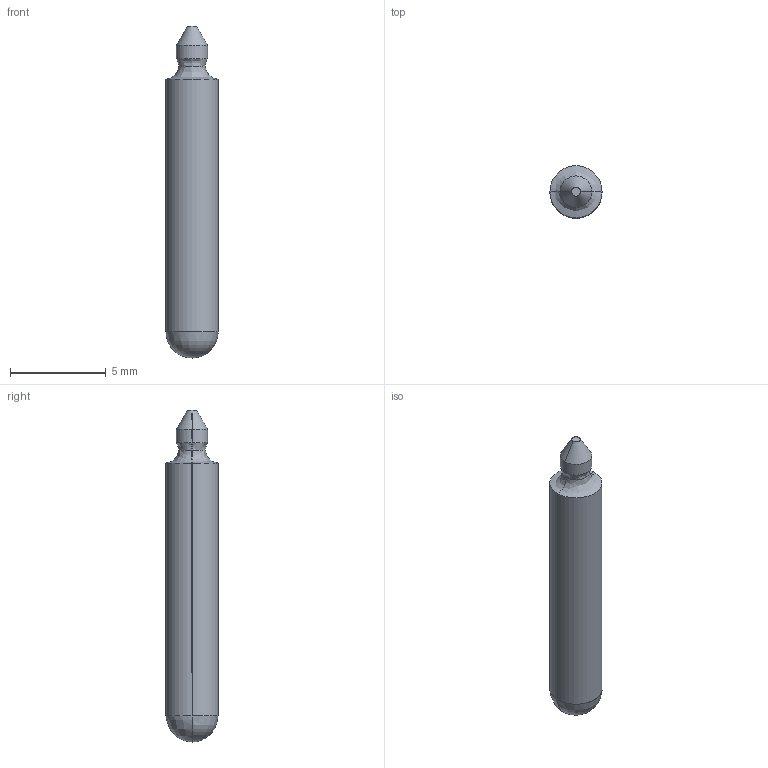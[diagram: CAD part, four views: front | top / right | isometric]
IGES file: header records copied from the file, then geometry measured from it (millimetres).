
Start section: SolidWorks IGES file using analytic representation for surfaces
Global section: file name: \\PSSILO\catalogs\CONTENTCENTRAL\Safety Lock Plunger\Cache\CCAA5C61-CB23-409D-9715-7EC79C5A36F4.IGS; native system: SolidWorks 2009; preprocessor: SolidWorks 2009; author: partstream; date: 090716.111728; units: inch
Bounding box: 2.72 x 2.72 x 17.3 mm (x, y, z)
Surface area: 139.7 mm2 (no closed solid volume)
Topology: 0 solids, 0 shells, 13 faces, 64 edges, 62 vertices
Faces by surface type: revolution 8, bspline 5
